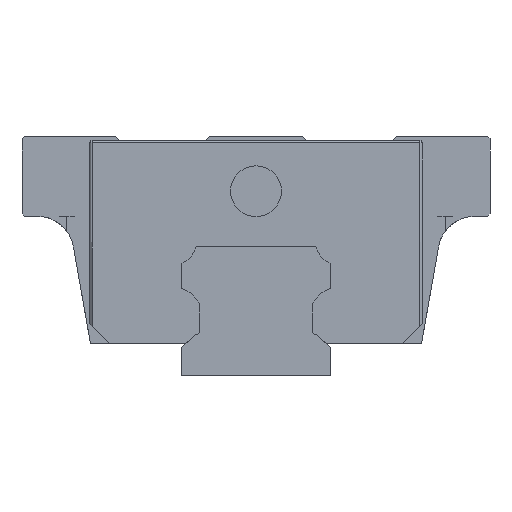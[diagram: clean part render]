
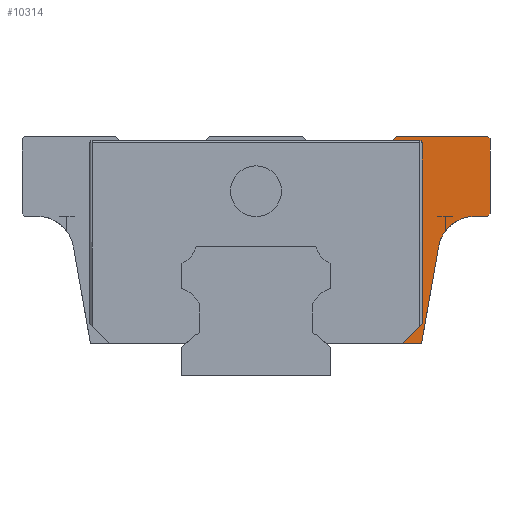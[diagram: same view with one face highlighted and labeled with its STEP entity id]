
A CAD part, left-side view. The second image highlights one B-rep face of the part: STEP entity #10314.
In plain terms, the highlighted planar face has unit normal (-1, 0, 0).
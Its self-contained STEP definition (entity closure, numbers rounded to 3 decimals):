
#2 = VERTEX_POINT ( 'NONE', #9316 ) ;
#6 = DIRECTION ( 'NONE',  ( 0., -1., 0. ) ) ;
#57 = LINE ( 'NONE', #11083, #8833 ) ;
#84 = CARTESIAN_POINT ( 'NONE',  ( -19.75, -23.5, 23.765 ) ) ;
#152 = DIRECTION ( 'NONE',  ( 0., 0.643, -0.766 ) ) ;
#720 = CARTESIAN_POINT ( 'NONE',  ( -19.75, -23.265, 24. ) ) ;
#934 = LINE ( 'NONE', #6531, #2009 ) ;
#975 = VERTEX_POINT ( 'NONE', #13582 ) ;
#1033 = VECTOR ( 'NONE', #2309, 1000. ) ;
#1076 = VERTEX_POINT ( 'NONE', #11550 ) ;
#1368 = CIRCLE ( 'NONE', #8326, 0.235 ) ;
#1492 = LINE ( 'NONE', #9116, #4098 ) ;
#1623 = CARTESIAN_POINT ( 'NONE',  ( -19.75, -8.619, 3.2 ) ) ;
#1725 = ORIENTED_EDGE ( 'NONE', *, *, #3054, .F. ) ;
#1757 = EDGE_CURVE ( 'NONE', #6741, #11275, #934, .T. ) ;
#1764 = ORIENTED_EDGE ( 'NONE', *, *, #5932, .F. ) ;
#1770 = CARTESIAN_POINT ( 'NONE',  ( -19.75, -23.5, 24. ) ) ;
#1796 = DIRECTION ( 'NONE',  ( 0., -0.174, 0.985 ) ) ;
#1813 = EDGE_CURVE ( 'NONE', #11275, #11416, #57, .T. ) ;
#2009 = VECTOR ( 'NONE', #7541, 1000. ) ;
#2012 = VERTEX_POINT ( 'NONE', #6414 ) ;
#2107 = LINE ( 'NONE', #9728, #5695 ) ;
#2285 = DIRECTION ( 'NONE',  ( 1., 0., 0. ) ) ;
#2309 = DIRECTION ( 'NONE',  ( 0., 0., 1. ) ) ;
#2393 = ORIENTED_EDGE ( 'NONE', *, *, #1813, .T. ) ;
#2768 = EDGE_CURVE ( 'NONE', #5426, #6741, #10423, .T. ) ;
#2820 = VERTEX_POINT ( 'NONE', #12231 ) ;
#3054 = EDGE_CURVE ( 'NONE', #975, #7580, #10920, .T. ) ;
#3172 = CARTESIAN_POINT ( 'NONE',  ( -19.75, -8.589, 1.324 ) ) ;
#3411 = PLANE ( 'NONE',  #10824 ) ;
#3509 = CIRCLE ( 'NONE', #5373, 3.75 ) ;
#3523 = VERTEX_POINT ( 'NONE', #5424 ) ;
#3598 = VECTOR ( 'NONE', #4179, 1000. ) ;
#3677 = VECTOR ( 'NONE', #6450, 1000. ) ;
#3764 = DIRECTION ( 'NONE',  ( -1., 0., 0. ) ) ;
#3848 = VERTEX_POINT ( 'NONE', #6064 ) ;
#3893 = ORIENTED_EDGE ( 'NONE', *, *, #3993, .T. ) ;
#3993 = EDGE_CURVE ( 'NONE', #3523, #2, #3509, .T. ) ;
#4098 = VECTOR ( 'NONE', #13610, 1000. ) ;
#4142 = VECTOR ( 'NONE', #152, 1000. ) ;
#4179 = DIRECTION ( 'NONE',  ( 0., 1., 0. ) ) ;
#4184 = EDGE_LOOP ( 'NONE', ( #1725, #13795, #1764, #10242, #6164, #4759, #3893, #8438, #13462, #8558, #2393, #5537, #4325 ) ) ;
#4325 = ORIENTED_EDGE ( 'NONE', *, *, #7406, .T. ) ;
#4621 = VECTOR ( 'NONE', #8535, 1000. ) ;
#4745 = VERTEX_POINT ( 'NONE', #8259 ) ;
#4759 = ORIENTED_EDGE ( 'NONE', *, *, #4771, .T. ) ;
#4771 = EDGE_CURVE ( 'NONE', #1076, #3523, #7242, .T. ) ;
#5373 = AXIS2_PLACEMENT_3D ( 'NONE', #12215, #2285, #11134 ) ;
#5424 = CARTESIAN_POINT ( 'NONE',  ( -19.75, -18.329, 12.901 ) ) ;
#5426 = VERTEX_POINT ( 'NONE', #10891 ) ;
#5537 = ORIENTED_EDGE ( 'NONE', *, *, #6800, .T. ) ;
#5695 = VECTOR ( 'NONE', #6, 1000. ) ;
#5932 = EDGE_CURVE ( 'NONE', #2820, #4745, #12165, .T. ) ;
#6019 = DIRECTION ( 'NONE',  ( 0., 0., 1. ) ) ;
#6064 = CARTESIAN_POINT ( 'NONE',  ( -19.75, -14.1, 24. ) ) ;
#6164 = ORIENTED_EDGE ( 'NONE', *, *, #6421, .T. ) ;
#6414 = CARTESIAN_POINT ( 'NONE',  ( -19.75, -14.696, 3.2 ) ) ;
#6421 = EDGE_CURVE ( 'NONE', #2012, #1076, #12873, .T. ) ;
#6450 = DIRECTION ( 'NONE',  ( 0., -0.707, 0.707 ) ) ;
#6531 = CARTESIAN_POINT ( 'NONE',  ( -19.75, -23.5, 16. ) ) ;
#6741 = VERTEX_POINT ( 'NONE', #12581 ) ;
#6800 = EDGE_CURVE ( 'NONE', #11416, #3848, #11705, .T. ) ;
#6939 = EDGE_CURVE ( 'NONE', #975, #4745, #1368, .T. ) ;
#7242 = LINE ( 'NONE', #13914, #11876 ) ;
#7406 = EDGE_CURVE ( 'NONE', #3848, #7580, #11321, .T. ) ;
#7541 = DIRECTION ( 'NONE',  ( 0., 0., 1. ) ) ;
#7580 = VERTEX_POINT ( 'NONE', #8425 ) ;
#8259 = CARTESIAN_POINT ( 'NONE',  ( -19.75, -16.701, 23.355 ) ) ;
#8326 = AXIS2_PLACEMENT_3D ( 'NONE', #14032, #11558, #12952 ) ;
#8425 = CARTESIAN_POINT ( 'NONE',  ( -19.75, -13.756, 23.59 ) ) ;
#8438 = ORIENTED_EDGE ( 'NONE', *, *, #13059, .T. ) ;
#8460 = DIRECTION ( 'NONE',  ( 0., 1., 0. ) ) ;
#8535 = DIRECTION ( 'NONE',  ( 0., -1., 0. ) ) ;
#8558 = ORIENTED_EDGE ( 'NONE', *, *, #1757, .T. ) ;
#8568 = VECTOR ( 'NONE', #8460, 1000. ) ;
#8833 = VECTOR ( 'NONE', #13322, 1000. ) ;
#9116 = CARTESIAN_POINT ( 'NONE',  ( -19.75, -14.696, 3.2 ) ) ;
#9316 = CARTESIAN_POINT ( 'NONE',  ( -19.75, -22.022, 16. ) ) ;
#9419 = CARTESIAN_POINT ( 'NONE',  ( -19.75, 0., 14.59 ) ) ;
#9559 = EDGE_CURVE ( 'NONE', #2012, #2820, #1492, .T. ) ;
#9728 = CARTESIAN_POINT ( 'NONE',  ( -19.75, -18.876, 16. ) ) ;
#10088 = CARTESIAN_POINT ( 'NONE',  ( -19.75, -14.1, 24. ) ) ;
#10242 = ORIENTED_EDGE ( 'NONE', *, *, #9559, .F. ) ;
#10314 = ADVANCED_FACE ( 'NONE', ( #13343 ), #3411, .T. ) ;
#10423 = LINE ( 'NONE', #3172, #3677 ) ;
#10824 = AXIS2_PLACEMENT_3D ( 'NONE', #9419, #3764, #6019 ) ;
#10891 = CARTESIAN_POINT ( 'NONE',  ( -19.75, -23.265, 16. ) ) ;
#10920 = LINE ( 'NONE', #11792, #3598 ) ;
#11083 = CARTESIAN_POINT ( 'NONE',  ( -19.75, -25.389, 21.876 ) ) ;
#11134 = DIRECTION ( 'NONE',  ( 0., 0., 1. ) ) ;
#11275 = VERTEX_POINT ( 'NONE', #84 ) ;
#11321 = LINE ( 'NONE', #10088, #4142 ) ;
#11416 = VERTEX_POINT ( 'NONE', #720 ) ;
#11550 = CARTESIAN_POINT ( 'NONE',  ( -19.75, -16.619, 3.2 ) ) ;
#11558 = DIRECTION ( 'NONE',  ( 1., 0., 0. ) ) ;
#11705 = LINE ( 'NONE', #1770, #8568 ) ;
#11792 = CARTESIAN_POINT ( 'NONE',  ( -19.75, -16.971, 23.59 ) ) ;
#11876 = VECTOR ( 'NONE', #1796, 1000. ) ;
#12165 = LINE ( 'NONE', #13395, #1033 ) ;
#12215 = CARTESIAN_POINT ( 'NONE',  ( -19.75, -22.022, 12.25 ) ) ;
#12231 = CARTESIAN_POINT ( 'NONE',  ( -19.75, -16.702, 5.205 ) ) ;
#12581 = CARTESIAN_POINT ( 'NONE',  ( -19.75, -23.5, 16.235 ) ) ;
#12873 = LINE ( 'NONE', #1623, #4621 ) ;
#12952 = DIRECTION ( 'NONE',  ( 0., 0., 1. ) ) ;
#13059 = EDGE_CURVE ( 'NONE', #2, #5426, #2107, .T. ) ;
#13322 = DIRECTION ( 'NONE',  ( 0., 0.707, 0.707 ) ) ;
#13343 = FACE_OUTER_BOUND ( 'NONE', #4184, .T. ) ;
#13395 = CARTESIAN_POINT ( 'NONE',  ( -19.75, -16.701, 5.2 ) ) ;
#13462 = ORIENTED_EDGE ( 'NONE', *, *, #2768, .T. ) ;
#13582 = CARTESIAN_POINT ( 'NONE',  ( -19.75, -16.466, 23.59 ) ) ;
#13610 = DIRECTION ( 'NONE',  ( 0., -0.707, 0.707 ) ) ;
#13795 = ORIENTED_EDGE ( 'NONE', *, *, #6939, .T. ) ;
#13914 = CARTESIAN_POINT ( 'NONE',  ( -19.75, -16.619, 3.2 ) ) ;
#14032 = CARTESIAN_POINT ( 'NONE',  ( -19.75, -16.466, 23.355 ) ) ;
